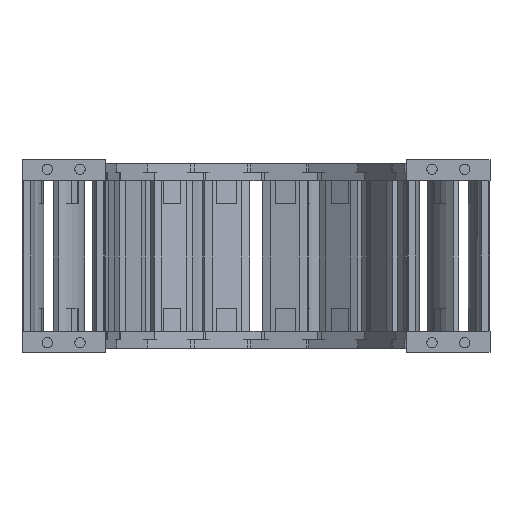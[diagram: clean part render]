
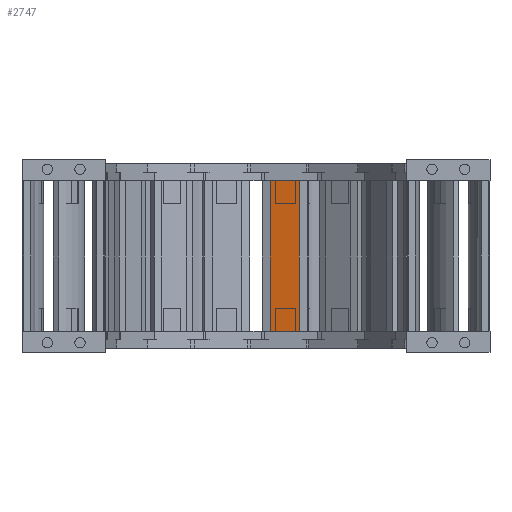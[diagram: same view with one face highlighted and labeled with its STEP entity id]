
A CAD part, left-side view. The second image highlights one B-rep face of the part: STEP entity #2747.
In plain terms, the highlighted planar face has unit normal (-0.981, 0.195, 0) as drawn and (0, -1, 0) by its records, which use the part's own axes.
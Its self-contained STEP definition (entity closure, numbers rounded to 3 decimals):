
#2634=DIRECTION('',(0.,0.,-1.));
#2635=VECTOR('',#2634,117.4);
#2636=CARTESIAN_POINT('',(-11.5,-61.,37.5));
#2637=LINE('',#2636,#2635);
#2651=DIRECTION('',(1.,0.,0.));
#2652=VECTOR('',#2651,23.);
#2653=CARTESIAN_POINT('',(-11.5,-61.,37.5));
#2654=LINE('',#2653,#2652);
#2684=DIRECTION('',(-1.,0.,0.));
#2685=VECTOR('',#2684,23.);
#2686=CARTESIAN_POINT('',(11.5,-61.,-79.9));
#2687=LINE('',#2686,#2685);
#2700=DIRECTION('',(0.,0.,-1.));
#2701=VECTOR('',#2700,117.4);
#2702=CARTESIAN_POINT('',(11.5,-61.,37.5));
#2703=LINE('',#2702,#2701);
#2714=CARTESIAN_POINT('',(11.5,-61.,-79.9));
#2715=VERTEX_POINT('',#2714);
#2716=CARTESIAN_POINT('',(-11.5,-61.,-79.9));
#2717=VERTEX_POINT('',#2716);
#2726=CARTESIAN_POINT('',(11.5,-61.,37.5));
#2727=VERTEX_POINT('',#2726);
#2730=CARTESIAN_POINT('',(-11.5,-61.,37.5));
#2731=VERTEX_POINT('',#2730);
#2732=CARTESIAN_POINT('',(15.5,-61.,-79.9));
#2733=DIRECTION('',(0.,1.,0.));
#2734=DIRECTION('',(-1.,0.,0.));
#2735=AXIS2_PLACEMENT_3D('',#2732,#2733,#2734);
#2736=PLANE('',#2735);
#2738=ORIENTED_EDGE('',*,*,#2737,.F.);
#2740=ORIENTED_EDGE('',*,*,#2739,.T.);
#2742=ORIENTED_EDGE('',*,*,#2741,.T.);
#2744=ORIENTED_EDGE('',*,*,#2743,.T.);
#2745=EDGE_LOOP('',(#2738,#2740,#2742,#2744));
#2746=FACE_OUTER_BOUND('',#2745,.F.);
#2747=ADVANCED_FACE('',(#2746),#2736,.F.);
#2737=EDGE_CURVE('',#2731,#2717,#2637,.T.);
#2739=EDGE_CURVE('',#2731,#2727,#2654,.T.);
#2741=EDGE_CURVE('',#2727,#2715,#2703,.T.);
#2743=EDGE_CURVE('',#2715,#2717,#2687,.T.);
